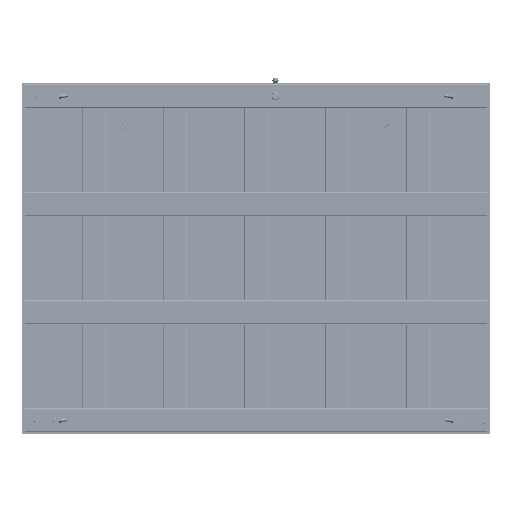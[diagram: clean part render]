
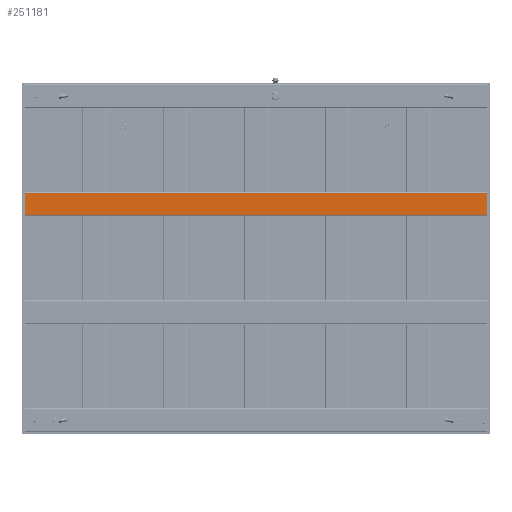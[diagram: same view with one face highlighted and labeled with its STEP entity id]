
A CAD part, front view. The second image highlights one B-rep face of the part: STEP entity #251181.
In plain terms, the highlighted planar face has unit normal (-0.004, -1, -0.002) as drawn and (0, -1, 0) by its records, which use the part's own axes.
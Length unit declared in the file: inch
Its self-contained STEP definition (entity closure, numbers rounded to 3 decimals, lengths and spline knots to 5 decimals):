
#8073 = VERTEX_POINT ( 'NONE', #524891 ) ;
#31020 = VECTOR ( 'NONE', #282173, 39.37008 ) ;
#66636 = EDGE_LOOP ( 'NONE', ( #603154, #500196, #270583, #112307 ) ) ;
#74942 = CARTESIAN_POINT ( 'NONE',  ( 0., 0., -2.1875 ) ) ;
#82339 = CARTESIAN_POINT ( 'NONE',  ( 0., 0., 2.1875 ) ) ;
#95195 = VERTEX_POINT ( 'NONE', #436927 ) ;
#104951 = VECTOR ( 'NONE', #469076, 39.37008 ) ;
#112307 = ORIENTED_EDGE ( 'NONE', *, *, #142939, .T. ) ;
#112438 = VERTEX_POINT ( 'NONE', #82339 ) ;
#142939 = EDGE_CURVE ( 'NONE', #320150, #95195, #317534, .T. ) ;
#145922 = CARTESIAN_POINT ( 'NONE',  ( 0., 0., -2.1875 ) ) ;
#147642 = EDGE_CURVE ( 'NONE', #112438, #320150, #492066, .T. ) ;
#151925 = VECTOR ( 'NONE', #499146, 39.37008 ) ;
#181344 = FACE_OUTER_BOUND ( 'NONE', #66636, .T. ) ;
#237150 = CARTESIAN_POINT ( 'NONE',  ( 94.75, 0., -2.3125 ) ) ;
#251181 = ADVANCED_FACE ( 'NONE', ( #181344 ), #621200, .T. ) ;
#260064 = EDGE_CURVE ( 'NONE', #95195, #8073, #261804, .T. ) ;
#261804 = LINE ( 'NONE', #237150, #104951 ) ;
#270361 = DIRECTION ( 'NONE',  ( 0., 0., -1. ) ) ;
#270583 = ORIENTED_EDGE ( 'NONE', *, *, #147642, .T. ) ;
#278528 = EDGE_CURVE ( 'NONE', #8073, #112438, #501514, .T. ) ;
#282173 = DIRECTION ( 'NONE',  ( -1., 0., 0. ) ) ;
#316571 = VECTOR ( 'NONE', #534512, 39.37008 ) ;
#317534 = LINE ( 'NONE', #145922, #151925 ) ;
#320150 = VERTEX_POINT ( 'NONE', #74942 ) ;
#386302 = CARTESIAN_POINT ( 'NONE',  ( 0., 0., 0. ) ) ;
#391263 = AXIS2_PLACEMENT_3D ( 'NONE', #386302, #499966, #270361 ) ;
#436927 = CARTESIAN_POINT ( 'NONE',  ( 94.75, 0., -2.1875 ) ) ;
#469076 = DIRECTION ( 'NONE',  ( 0., 0., 1. ) ) ;
#492066 = LINE ( 'NONE', #759375, #316571 ) ;
#499146 = DIRECTION ( 'NONE',  ( 1., 0., 0. ) ) ;
#499966 = DIRECTION ( 'NONE',  ( 0., -1., 0. ) ) ;
#500196 = ORIENTED_EDGE ( 'NONE', *, *, #278528, .T. ) ;
#501514 = LINE ( 'NONE', #578696, #31020 ) ;
#524891 = CARTESIAN_POINT ( 'NONE',  ( 94.75, 0., 2.1875 ) ) ;
#534512 = DIRECTION ( 'NONE',  ( 0., 0., -1. ) ) ;
#578696 = CARTESIAN_POINT ( 'NONE',  ( 0., 0., 2.1875 ) ) ;
#603154 = ORIENTED_EDGE ( 'NONE', *, *, #260064, .T. ) ;
#621200 = PLANE ( 'NONE',  #391263 ) ;
#759375 = CARTESIAN_POINT ( 'NONE',  ( 0., 0., 2.3125 ) ) ;
